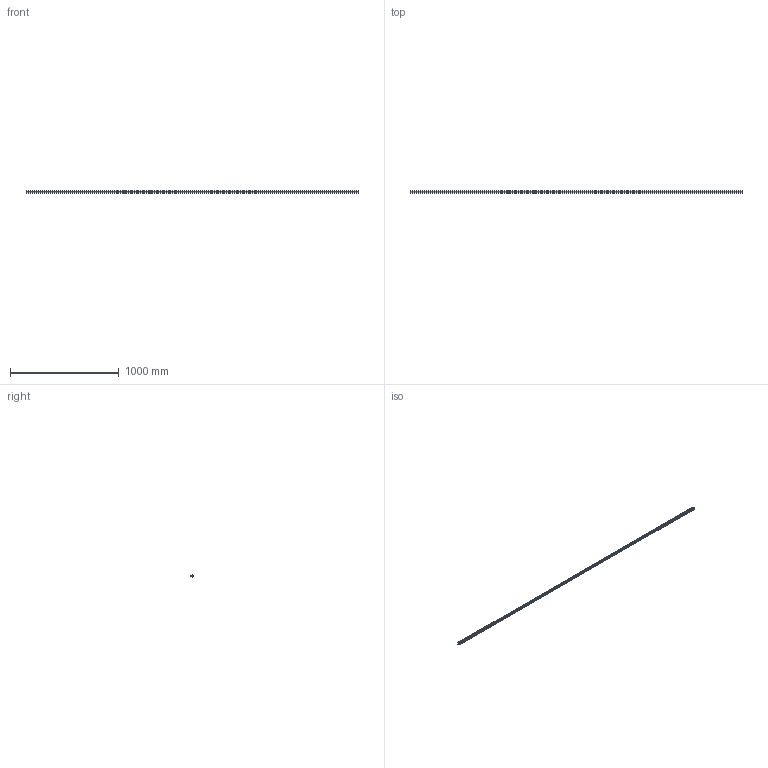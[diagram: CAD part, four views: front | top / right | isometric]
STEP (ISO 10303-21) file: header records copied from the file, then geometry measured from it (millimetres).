
FILE_DESCRIPTION (( 'STEP AP203' ), '1' );
FILE_NAME ('L1018.20R-3060.step', '2023-08-06T09:15:40', ( '' ), ( '' ), 'SwSTEP 2.0', 'SolidWorks 2019', '' );
FILE_SCHEMA (( 'CONFIG_CONTROL_DESIGN' ));
Length unit declared in the file: millimetre
Products named in the file (1): L1018.20R-3060
Bounding box: 3060 x 19.3 x 20 mm (x, y, z)
Volume: 970412.5 mm3; surface area: 258889.6 mm2
Topology: 1 solids, 1 shells, 488 faces, 1101 edges, 615 vertices
Faces by surface type: cylinder 207, cone 204, plane 77
Entity records: 12932 total; most frequent: DIRECTION 2493, CARTESIAN_POINT 2103, ORIENTED_EDGE 1998, AXIS2_PLACEMENT_3D 1005, EDGE_CURVE 999, VERTEX_POINT 615, EDGE_LOOP 590, CIRCLE 516
